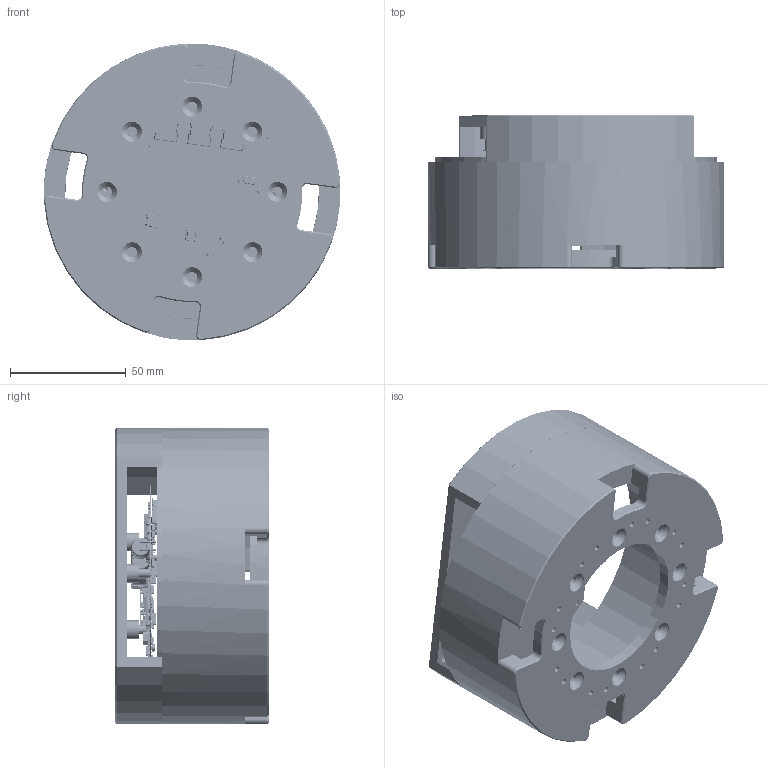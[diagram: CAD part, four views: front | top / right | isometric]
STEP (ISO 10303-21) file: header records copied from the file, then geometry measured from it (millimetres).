
FILE_DESCRIPTION (( 'STEP AP214' ), '1' );
FILE_NAME ('AKE90-8聆彸馱蚾STEP.STEP', '2025-11-21T05:15:13', ( '' ), ( '' ), 'SwSTEP 2.0', 'SolidWorks 2020', '' );
FILE_SCHEMA (( 'AUTOMOTIVE_DESIGN' ));
Length unit declared in the file: millimetre
Products named in the file (4): 90-8聆彸俋褲; 90-8驱动版罩; AK-DRV-12S-30A_V1.00; AKE90-8聆彸馱蚾STEP
Assembly tree (3 placements, depth 2):
  AKE90-8聆彸馱蚾STEP
    90-8聆彸俋褲
    AK-DRV-12S-30A_V1.00
    90-8驱动版罩
Bounding box: 127.86 x 66 x 127.95 mm (x, y, z)
Volume: 247768.6 mm3; surface area: 104256.6 mm2
Topology: 2 solids, 2715 shells, 9501 faces, 45771 edges, 38131 vertices
Faces by surface type: plane 5825, cylinder 1968, bspline 1251, sphere 244, torus 113, cone 100
Full cylindrical faces by diameter (mm): 0.25 x32, 0.8 x3, 0.9 x4, 2 x2, 2.05 x3, 2.5 x20, 2.6 x4, 3.2 x3, 3.4 x4, 3.8 x3, 4.5 x8, 6 x4, 8 x3, 8.6 x8, 60 x1, 87 x1, 109.5 x1, 122 x1, 128 x1
Entity records: 708568 total; most frequent: CARTESIAN_POINT 280195, DIRECTION 56097, ORIENTED_EDGE 56012, EDGE_CURVE 45291, VERTEX_POINT 38090, LINE 28607, VECTOR 28607, AXIS2_PLACEMENT_3D 13745
